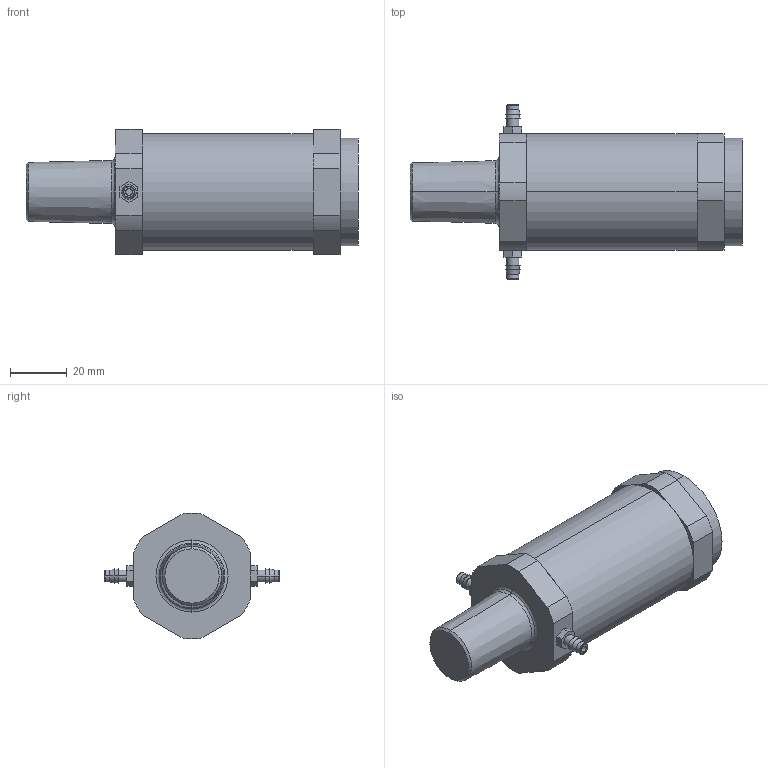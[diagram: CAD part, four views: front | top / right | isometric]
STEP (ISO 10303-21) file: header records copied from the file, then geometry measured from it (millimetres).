
FILE_DESCRIPTION((''),'2;1');
FILE_NAME('XER4_ASM','2017-08-24T',('jennifer.elliott'),('CenterLine (Windsor) Ltd - Automation Components Division'),'PRO/ENGINEER BY PARAMETRIC TECHNOLOGY CORPORATION, 2015030','PRO/ENGINEER BY PARAMETRIC TECHNOLOGY CORPORATION, 2015030','');
FILE_SCHEMA(('AUTOMOTIVE_DESIGN { 1 0 10303 214 1 1 1 1 }'));
Length unit declared in the file: inch
Products named in the file (7): PRT1058; PRT1059; PRT1060; PRT1061; PRT1062; PRT1063; XER4_ASM
Assembly tree (6 placements, depth 2):
  XER4_ASM
    PRT1058
    PRT1059
    PRT1060
    PRT1061
    PRT1062
    PRT1063
Bounding box: 117.35 x 61.9 x 44.45 mm (x, y, z)
Volume: 127418.2 mm3; surface area: 24580.2 mm2
Topology: 6 solids, 6 shells, 95 faces, 234 edges, 158 vertices
Faces by surface type: plane 43, cylinder 28, torus 12, cone 12
Entity records: 3332 total; most frequent: DIRECTION 572, CARTESIAN_POINT 519, ORIENTED_EDGE 468, EDGE_CURVE 234, AXIS2_PLACEMENT_3D 230, VERTEX_POINT 158, CIRCLE 122, VECTOR 112
